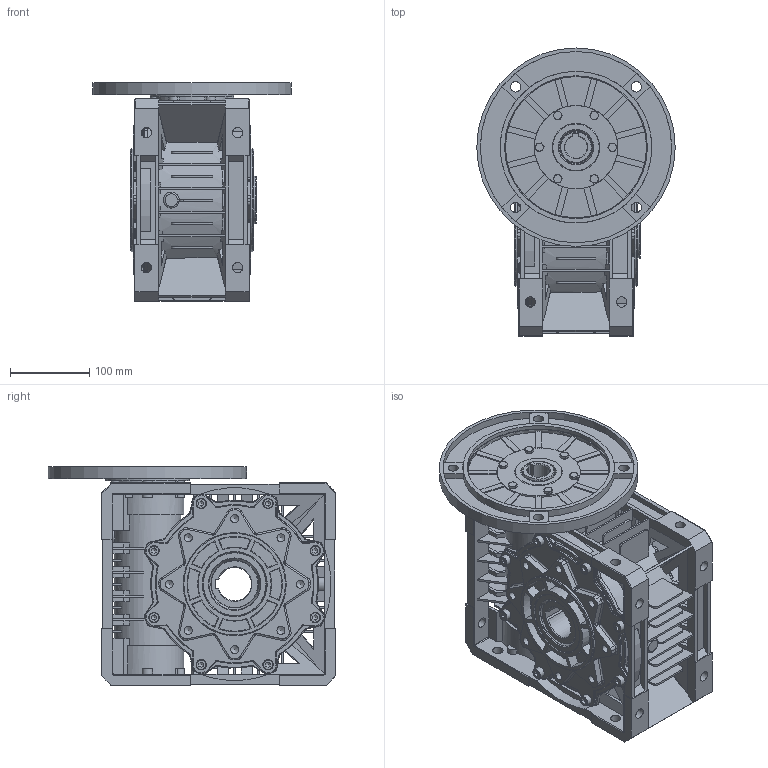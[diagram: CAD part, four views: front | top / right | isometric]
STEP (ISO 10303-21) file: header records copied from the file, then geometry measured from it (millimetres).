
FILE_DESCRIPTION((''),'2;1');
FILE_NAME('C:\Users\m.piscopiello.SITIRIDUTTORI\Desktop\FIGURINI VSF\FIG STEP\U-MU 110 STEP_old\MU 110 PAM 100 B5.stp','2016-03-08T10:15:02',('m.piscopiello'),(''),'Autodesk Inventor 2012','Autodesk Inventor 2012','');
FILE_SCHEMA(('CONFIG_CONTROL_DESIGN'));
Length unit declared in the file: millimetre
Products named in the file (1): 3F021177
Bounding box: 250 x 362.5 x 275.5 mm (x, y, z)
Volume: 6442960.5 mm3; surface area: 952863.2 mm2
Topology: 1 solids, 28 shells, 2168 faces, 5870 edges, 3727 vertices
Faces by surface type: plane 1157, cylinder 556, torus 221, cone 152, bspline 74, sphere 8
Full cylindrical faces by diameter (mm): 4.917 x12, 6 x12, 8 x24, 8.88 x6, 9 x8, 10.106 x16, 13 x28, 20 x1, 36 x1, 40 x2, 43.75 x1, 45.438 x1, 52 x1, 56.6 x1, 60 x5, 66 x2, 68.5 x1, 75 x2, 76.875 x1, 77.4 x1, 78 x1, 80 x8, 84 x1, 105 x2, 130 x2, 178 x1, 180 x1, 191 x1, 241 x1, 250 x1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
Entity records: 68522 total; most frequent: CARTESIAN_POINT 15051, DIRECTION 11260, ORIENTED_EDGE 10964, EDGE_CURVE 5482, AXIS2_PLACEMENT_3D 4163, VERTEX_POINT 3631, VECTOR 2934, LINE 2934
